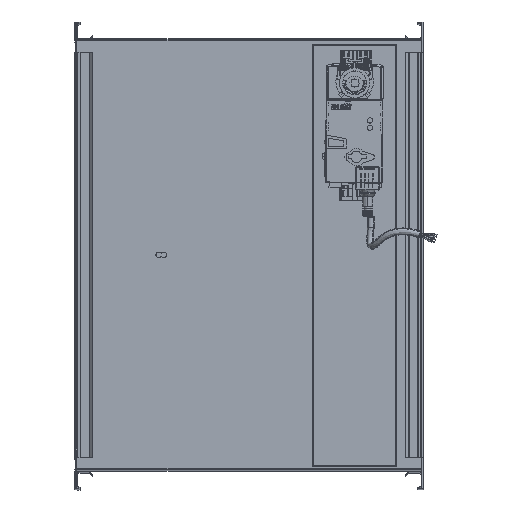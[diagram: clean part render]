
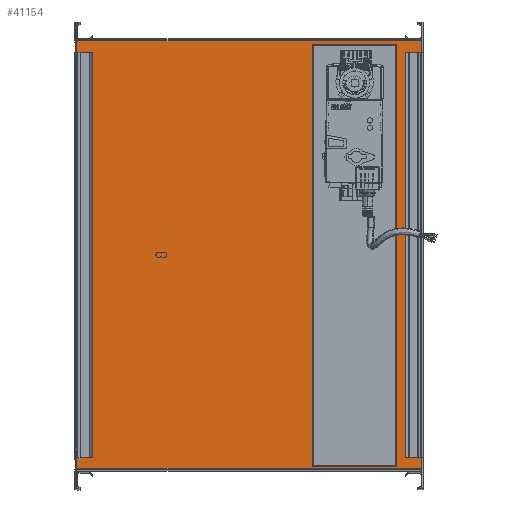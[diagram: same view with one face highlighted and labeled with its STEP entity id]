
A CAD part, top view. The second image highlights one B-rep face of the part: STEP entity #41154.
In plain terms, the highlighted planar face has unit normal (0, 0, 1).
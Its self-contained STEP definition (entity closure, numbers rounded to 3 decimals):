
#296 = CARTESIAN_POINT ( 'NONE',  ( 126.779, -232.168, 1600. ) ) ;
#1110 = CARTESIAN_POINT ( 'NONE',  ( 28.779, 257.832, 1600. ) ) ;
#1123 = ORIENTED_EDGE ( 'NONE', *, *, #15590, .F. ) ;
#2171 = CARTESIAN_POINT ( 'NONE',  ( -244.423, -233.848, 1600. ) ) ;
#2684 = DIRECTION ( 'NONE',  ( 0., 0., 1. ) ) ;
#3389 = EDGE_CURVE ( 'NONE', #39122, #50883, #26596, .T. ) ;
#3390 = CARTESIAN_POINT ( 'NONE',  ( 155.577, -233.848, 1600. ) ) ;
#4715 = CARTESIAN_POINT ( 'NONE',  ( 155.577, -233.848, 1600. ) ) ;
#5265 = CARTESIAN_POINT ( 'NONE',  ( 28.779, -232.168, 1600. ) ) ;
#5354 = CARTESIAN_POINT ( 'NONE',  ( -244.423, 262.152, 1600. ) ) ;
#5650 = AXIS2_PLACEMENT_3D ( 'NONE', #88592, #2684, #44915 ) ;
#5886 = EDGE_LOOP ( 'NONE', ( #88516, #62949, #47223, #93761 ) ) ;
#6121 = EDGE_LOOP ( 'NONE', ( #1123, #21712, #28171, #15003 ) ) ;
#8766 = VERTEX_POINT ( 'NONE', #86950 ) ;
#9363 = EDGE_CURVE ( 'NONE', #38770, #39122, #30082, .T. ) ;
#9572 = CARTESIAN_POINT ( 'NONE',  ( -244.423, 262.152, 1600. ) ) ;
#10197 = CARTESIAN_POINT ( 'NONE',  ( 126.779, -232.168, 1600. ) ) ;
#10281 = VERTEX_POINT ( 'NONE', #4715 ) ;
#15003 = ORIENTED_EDGE ( 'NONE', *, *, #35677, .T. ) ;
#15590 = EDGE_CURVE ( 'NONE', #8766, #10281, #82629, .T. ) ;
#15993 = FACE_OUTER_BOUND ( 'NONE', #6121, .T. ) ;
#20735 = VECTOR ( 'NONE', #38485, 1000. ) ;
#21712 = ORIENTED_EDGE ( 'NONE', *, *, #71524, .F. ) ;
#22613 = LINE ( 'NONE', #80960, #33267 ) ;
#24412 = CARTESIAN_POINT ( 'NONE',  ( 126.779, 257.832, 1600. ) ) ;
#26596 = LINE ( 'NONE', #5265, #27062 ) ;
#26679 = LINE ( 'NONE', #5354, #81800 ) ;
#27062 = VECTOR ( 'NONE', #27994, 1000. ) ;
#27667 = EDGE_CURVE ( 'NONE', #41899, #30069, #22613, .T. ) ;
#27994 = DIRECTION ( 'NONE',  ( 0., -1., 0. ) ) ;
#28171 = ORIENTED_EDGE ( 'NONE', *, *, #27667, .T. ) ;
#30069 = VERTEX_POINT ( 'NONE', #33699 ) ;
#30082 = LINE ( 'NONE', #87079, #81943 ) ;
#31999 = VERTEX_POINT ( 'NONE', #296 ) ;
#33008 = VECTOR ( 'NONE', #39137, 1000. ) ;
#33246 = DIRECTION ( 'NONE',  ( 1., 0., 0. ) ) ;
#33267 = VECTOR ( 'NONE', #37762, 1000. ) ;
#33699 = CARTESIAN_POINT ( 'NONE',  ( -244.423, -233.848, 1600. ) ) ;
#35468 = VECTOR ( 'NONE', #33246, 1000. ) ;
#35677 = EDGE_CURVE ( 'NONE', #30069, #10281, #60059, .T. ) ;
#37762 = DIRECTION ( 'NONE',  ( 0., -1., 0. ) ) ;
#38485 = DIRECTION ( 'NONE',  ( 0., -1., 0. ) ) ;
#38770 = VERTEX_POINT ( 'NONE', #24412 ) ;
#39122 = VERTEX_POINT ( 'NONE', #1110 ) ;
#39137 = DIRECTION ( 'NONE',  ( 0., 1., 0. ) ) ;
#41154 = ADVANCED_FACE ( 'NONE', ( #15993, #45845 ), #46340, .T. ) ;
#41899 = VERTEX_POINT ( 'NONE', #9572 ) ;
#44915 = DIRECTION ( 'NONE',  ( 1., 0., 0. ) ) ;
#45845 = FACE_BOUND ( 'NONE', #5886, .T. ) ;
#46340 = PLANE ( 'NONE',  #5650 ) ;
#47223 = ORIENTED_EDGE ( 'NONE', *, *, #91933, .F. ) ;
#49666 = CARTESIAN_POINT ( 'NONE',  ( 28.779, -232.168, 1600. ) ) ;
#50731 = VECTOR ( 'NONE', #82328, 1000. ) ;
#50883 = VERTEX_POINT ( 'NONE', #49666 ) ;
#54644 = CARTESIAN_POINT ( 'NONE',  ( 28.779, -232.168, 1600. ) ) ;
#55655 = DIRECTION ( 'NONE',  ( 1., 0., 0. ) ) ;
#60059 = LINE ( 'NONE', #2171, #50731 ) ;
#62949 = ORIENTED_EDGE ( 'NONE', *, *, #69055, .F. ) ;
#65241 = DIRECTION ( 'NONE',  ( -1., 0., 0. ) ) ;
#69055 = EDGE_CURVE ( 'NONE', #31999, #38770, #83268, .T. ) ;
#71524 = EDGE_CURVE ( 'NONE', #41899, #8766, #26679, .T. ) ;
#80960 = CARTESIAN_POINT ( 'NONE',  ( -244.423, -233.848, 1600. ) ) ;
#81800 = VECTOR ( 'NONE', #55655, 1000. ) ;
#81943 = VECTOR ( 'NONE', #65241, 1000. ) ;
#82328 = DIRECTION ( 'NONE',  ( 1., 0., 0. ) ) ;
#82629 = LINE ( 'NONE', #3390, #20735 ) ;
#83129 = LINE ( 'NONE', #54644, #35468 ) ;
#83268 = LINE ( 'NONE', #10197, #33008 ) ;
#86950 = CARTESIAN_POINT ( 'NONE',  ( 155.577, 262.152, 1600. ) ) ;
#87079 = CARTESIAN_POINT ( 'NONE',  ( 28.779, 257.832, 1600. ) ) ;
#88516 = ORIENTED_EDGE ( 'NONE', *, *, #9363, .F. ) ;
#88592 = CARTESIAN_POINT ( 'NONE',  ( -244.423, -233.848, 1600. ) ) ;
#91933 = EDGE_CURVE ( 'NONE', #50883, #31999, #83129, .T. ) ;
#93761 = ORIENTED_EDGE ( 'NONE', *, *, #3389, .F. ) ;
